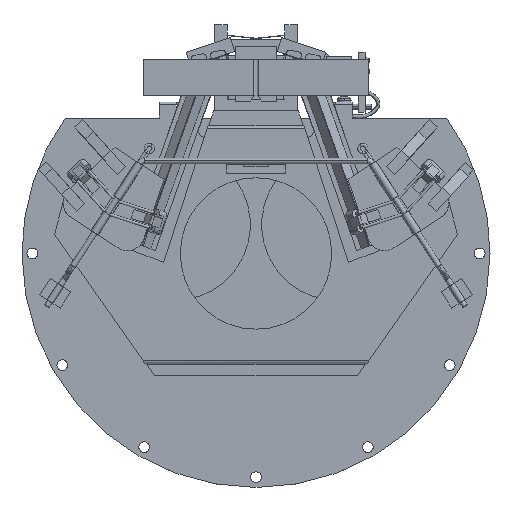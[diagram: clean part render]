
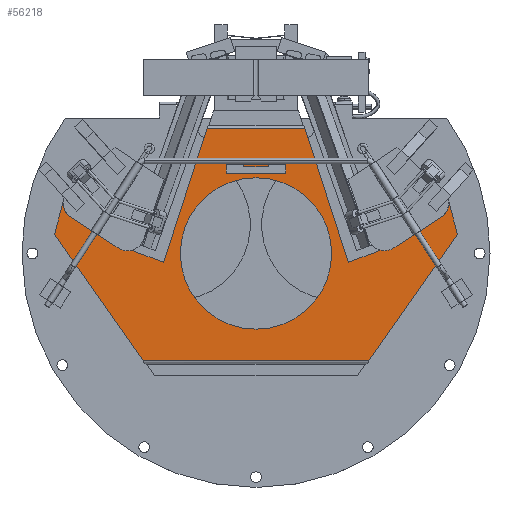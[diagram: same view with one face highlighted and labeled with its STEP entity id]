
A CAD part, top view. The second image highlights one B-rep face of the part: STEP entity #56218.
In plain terms, the highlighted planar face has unit normal (0, 0, 1).
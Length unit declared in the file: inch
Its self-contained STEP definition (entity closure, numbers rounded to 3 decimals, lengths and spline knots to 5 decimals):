
#14811 = CARTESIAN_POINT ( 'NONE',  ( 0.6875, 0., 0.07 ) ) ;
#14945 = AXIS2_PLACEMENT_3D ( 'NONE', #14964, #15000, #14999 ) ;
#14948 = DIRECTION ( 'NONE',  ( 1., 0., 0. ) ) ;
#14949 = VECTOR ( 'NONE', #14948, 39.37008 ) ;
#14950 = CARTESIAN_POINT ( 'NONE',  ( -0.281, -0.975, 0.07 ) ) ;
#14951 = CIRCLE ( 'NONE', #14945, 0.6875 ) ;
#14952 = DIRECTION ( 'NONE',  ( 0., 0., -1. ) ) ;
#14953 = LINE ( 'NONE', #14950, #14949 ) ;
#14954 = CIRCLE ( 'NONE', #14958, 0.6875 ) ;
#14955 = DIRECTION ( 'NONE',  ( 0.311, 0.95, 0. ) ) ;
#14956 = VECTOR ( 'NONE', #14955, 39.37008 ) ;
#14957 = CARTESIAN_POINT ( 'NONE',  ( -0.385, 1.312, 0.07 ) ) ;
#14958 = AXIS2_PLACEMENT_3D ( 'NONE', #15001, #14952, #14988 ) ;
#14964 = CARTESIAN_POINT ( 'NONE',  ( 0., 0., 0.07 ) ) ;
#14965 = LINE ( 'NONE', #14957, #14956 ) ;
#14971 = CARTESIAN_POINT ( 'NONE',  ( -0.6875, 0., 0.07 ) ) ;
#14988 = DIRECTION ( 'NONE',  ( -1., 0., 0. ) ) ;
#14999 = DIRECTION ( 'NONE',  ( -1., 0., 0. ) ) ;
#15000 = DIRECTION ( 'NONE',  ( 0., 0., -1. ) ) ;
#15001 = CARTESIAN_POINT ( 'NONE',  ( 0., 0., 0.07 ) ) ;
#15089 = DIRECTION ( 'NONE',  ( -0.574, -0.819, 0. ) ) ;
#15090 = VECTOR ( 'NONE', #15089, 39.37008 ) ;
#15091 = CARTESIAN_POINT ( 'NONE',  ( 1.83, 0.17461, 0.07 ) ) ;
#15092 = LINE ( 'NONE', #15091, #15090 ) ;
#15093 = CARTESIAN_POINT ( 'NONE',  ( -0.84, -0.07945, 0.07 ) ) ;
#15094 = CARTESIAN_POINT ( 'NONE',  ( 0.44386, 1.132, 0.07 ) ) ;
#15095 = CARTESIAN_POINT ( 'NONE',  ( -0.44386, 1.132, 0.07 ) ) ;
#15096 = CARTESIAN_POINT ( 'NONE',  ( 0.281, 1.82, 0.07 ) ) ;
#15097 = DIRECTION ( 'NONE',  ( 0.259, 0.966, 0. ) ) ;
#15098 = VECTOR ( 'NONE', #15097, 39.37008 ) ;
#15099 = CARTESIAN_POINT ( 'NONE',  ( -1.74602, 0.48804, 0.07 ) ) ;
#15100 = LINE ( 'NONE', #15099, #15098 ) ;
#15101 = LINE ( 'NONE', #15153, #15152 ) ;
#15102 = CARTESIAN_POINT ( 'NONE',  ( -1.74602, 0.48804, 0.07 ) ) ;
#15104 = DIRECTION ( 'NONE',  ( -1., 0., 0. ) ) ;
#15105 = DIRECTION ( 'NONE',  ( 0., 0., 1. ) ) ;
#15106 = CARTESIAN_POINT ( 'NONE',  ( -0.281, 1.82, 0.07 ) ) ;
#15107 = AXIS2_PLACEMENT_3D ( 'NONE', #15106, #15105, #15104 ) ;
#15108 = CIRCLE ( 'NONE', #15107, 1.98 ) ;
#15123 = CARTESIAN_POINT ( 'NONE',  ( 1.02503, -0.975, 0.07 ) ) ;
#15125 = FACE_OUTER_BOUND ( 'NONE', #56217, .T. ) ;
#15126 = VECTOR ( 'NONE', #15143, 39.37008 ) ;
#15127 = CARTESIAN_POINT ( 'NONE',  ( 1.74602, 0.48804, 0.07 ) ) ;
#15131 = PLANE ( 'NONE',  #15138 ) ;
#15132 = LINE ( 'NONE', #15144, #15126 ) ;
#15135 = FACE_BOUND ( 'NONE', #56167, .T. ) ;
#15138 = AXIS2_PLACEMENT_3D ( 'NONE', #15163, #15162, #15161 ) ;
#15139 = DIRECTION ( 'NONE',  ( 1., 0., 0. ) ) ;
#15140 = DIRECTION ( 'NONE',  ( 0., 0., 1. ) ) ;
#15143 = DIRECTION ( 'NONE',  ( 0.311, -0.95, 0. ) ) ;
#15144 = CARTESIAN_POINT ( 'NONE',  ( 0.385, 1.312, 0.07 ) ) ;
#15145 = DIRECTION ( 'NONE',  ( 1., 0., 0. ) ) ;
#15146 = VECTOR ( 'NONE', #15145, 39.37008 ) ;
#15147 = AXIS2_PLACEMENT_3D ( 'NONE', #15096, #15140, #15139 ) ;
#15148 = CARTESIAN_POINT ( 'NONE',  ( -0.281, 1.132, 0.07 ) ) ;
#15149 = LINE ( 'NONE', #15148, #15146 ) ;
#15151 = DIRECTION ( 'NONE',  ( 0.259, -0.966, 0. ) ) ;
#15152 = VECTOR ( 'NONE', #15151, 39.37008 ) ;
#15153 = CARTESIAN_POINT ( 'NONE',  ( 1.74602, 0.48804, 0.07 ) ) ;
#15154 = CIRCLE ( 'NONE', #15147, 1.98 ) ;
#15157 = DIRECTION ( 'NONE',  ( -0.574, 0.819, 0. ) ) ;
#15158 = VECTOR ( 'NONE', #15157, 39.37008 ) ;
#15159 = CARTESIAN_POINT ( 'NONE',  ( -1.83, 0.17461, 0.07 ) ) ;
#15160 = CARTESIAN_POINT ( 'NONE',  ( 0.84, -0.07945, 0.07 ) ) ;
#15161 = DIRECTION ( 'NONE',  ( -1., 0., 0. ) ) ;
#15162 = DIRECTION ( 'NONE',  ( 0., 0., -1. ) ) ;
#15163 = CARTESIAN_POINT ( 'NONE',  ( -0.281, 1.82, 0.07 ) ) ;
#15164 = LINE ( 'NONE', #15159, #15158 ) ;
#15165 = CARTESIAN_POINT ( 'NONE',  ( 1.83, 0.17461, 0.07 ) ) ;
#15166 = CARTESIAN_POINT ( 'NONE',  ( -1.02503, -0.975, 0.07 ) ) ;
#15167 = CARTESIAN_POINT ( 'NONE',  ( -1.83, 0.17461, 0.07 ) ) ;
#56147 = VERTEX_POINT ( 'NONE', #14811 ) ;
#56151 = VERTEX_POINT ( 'NONE', #14971 ) ;
#56154 = EDGE_CURVE ( 'NONE', #56205, #56202, #14965, .T. ) ;
#56156 = EDGE_CURVE ( 'NONE', #56222, #56221, #14953, .T. ) ;
#56160 = ORIENTED_EDGE ( 'NONE', *, *, #56165, .T. ) ;
#56162 = EDGE_CURVE ( 'NONE', #56147, #56151, #14951, .T. ) ;
#56165 = EDGE_CURVE ( 'NONE', #56151, #56147, #14954, .T. ) ;
#56167 = EDGE_LOOP ( 'NONE', ( #56220, #56160 ) ) ;
#56189 = ORIENTED_EDGE ( 'NONE', *, *, #56196, .F. ) ;
#56192 = ORIENTED_EDGE ( 'NONE', *, *, #56154, .F. ) ;
#56193 = EDGE_CURVE ( 'NONE', #56210, #56205, #15108, .T. ) ;
#56195 = ORIENTED_EDGE ( 'NONE', *, *, #56193, .F. ) ;
#56196 = EDGE_CURVE ( 'NONE', #56227, #56210, #15100, .T. ) ;
#56199 = ORIENTED_EDGE ( 'NONE', *, *, #56156, .T. ) ;
#56200 = EDGE_CURVE ( 'NONE', #56224, #56221, #15092, .T. ) ;
#56202 = VERTEX_POINT ( 'NONE', #15095 ) ;
#56203 = ORIENTED_EDGE ( 'NONE', *, *, #56200, .F. ) ;
#56204 = EDGE_CURVE ( 'NONE', #56216, #56224, #15101, .T. ) ;
#56205 = VERTEX_POINT ( 'NONE', #15093 ) ;
#56206 = EDGE_CURVE ( 'NONE', #56202, #56214, #15149, .T. ) ;
#56207 = ORIENTED_EDGE ( 'NONE', *, *, #56204, .F. ) ;
#56208 = EDGE_CURVE ( 'NONE', #56226, #56216, #15154, .T. ) ;
#56210 = VERTEX_POINT ( 'NONE', #15102 ) ;
#56212 = ORIENTED_EDGE ( 'NONE', *, *, #56206, .F. ) ;
#56213 = ORIENTED_EDGE ( 'NONE', *, *, #56215, .F. ) ;
#56214 = VERTEX_POINT ( 'NONE', #15094 ) ;
#56215 = EDGE_CURVE ( 'NONE', #56214, #56226, #15132, .T. ) ;
#56216 = VERTEX_POINT ( 'NONE', #15127 ) ;
#56217 = EDGE_LOOP ( 'NONE', ( #56223, #56199, #56203, #56207, #56225, #56213, #56212, #56192, #56195, #56189 ) ) ;
#56218 = ADVANCED_FACE ( 'NONE', ( #15135, #15125 ), #15131, .F. ) ;
#56219 = EDGE_CURVE ( 'NONE', #56222, #56227, #15164, .T. ) ;
#56220 = ORIENTED_EDGE ( 'NONE', *, *, #56162, .T. ) ;
#56221 = VERTEX_POINT ( 'NONE', #15123 ) ;
#56222 = VERTEX_POINT ( 'NONE', #15166 ) ;
#56223 = ORIENTED_EDGE ( 'NONE', *, *, #56219, .F. ) ;
#56224 = VERTEX_POINT ( 'NONE', #15165 ) ;
#56225 = ORIENTED_EDGE ( 'NONE', *, *, #56208, .F. ) ;
#56226 = VERTEX_POINT ( 'NONE', #15160 ) ;
#56227 = VERTEX_POINT ( 'NONE', #15167 ) ;
